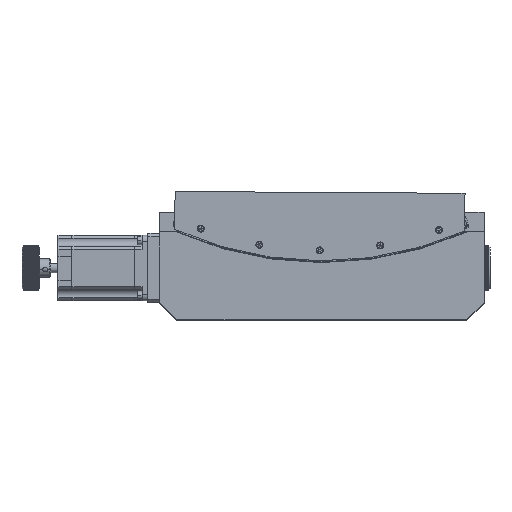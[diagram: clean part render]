
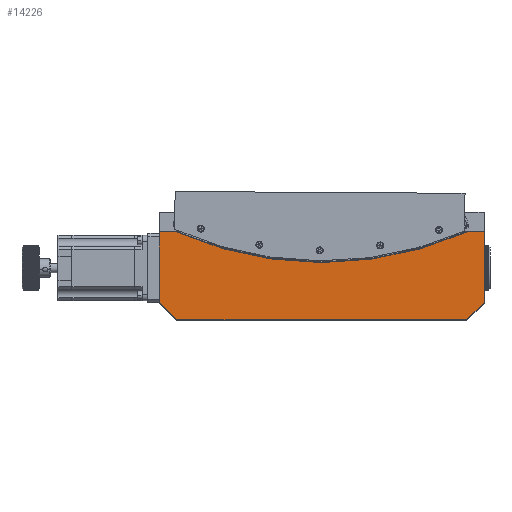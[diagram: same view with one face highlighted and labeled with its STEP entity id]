
A CAD part, top view. The second image highlights one B-rep face of the part: STEP entity #14226.
In plain terms, the highlighted planar face has unit normal (0, 0, 1).
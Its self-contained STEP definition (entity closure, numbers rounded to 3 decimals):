
#165 = DIRECTION ( 'NONE',  ( 1., 0., 0. ) ) ;
#625 = EDGE_CURVE ( 'NONE', #60188, #35125, #70253, .T. ) ;
#725 = LINE ( 'NONE', #44253, #48659 ) ;
#1711 = VECTOR ( 'NONE', #24574, 1000. ) ;
#5251 = EDGE_CURVE ( 'NONE', #16733, #66769, #6671, .T. ) ;
#6671 = LINE ( 'NONE', #63354, #61179 ) ;
#7596 = DIRECTION ( 'NONE',  ( 1., 0., 0. ) ) ;
#10906 = VECTOR ( 'NONE', #19831, 1000. ) ;
#13525 = CIRCLE ( 'NONE', #66016, 310.5 ) ;
#14226 = ADVANCED_FACE ( 'NONE', ( #28779 ), #64234, .T. ) ;
#15217 = ORIENTED_EDGE ( 'NONE', *, *, #625, .T. ) ;
#15375 = EDGE_CURVE ( 'NONE', #73647, #20079, #63854, .T. ) ;
#16733 = VERTEX_POINT ( 'NONE', #34276 ) ;
#16991 = CARTESIAN_POINT ( 'NONE',  ( -168.152, -57.355, 250. ) ) ;
#17254 = EDGE_CURVE ( 'NONE', #33555, #60188, #25794, .T. ) ;
#19831 = DIRECTION ( 'NONE',  ( 0.707, 0.707, 0. ) ) ;
#20079 = VERTEX_POINT ( 'NONE', #32560 ) ;
#20694 = CARTESIAN_POINT ( 'NONE',  ( -183.152, -57.355, 250. ) ) ;
#21354 = DIRECTION ( 'NONE',  ( -1., 0., 0. ) ) ;
#21809 = EDGE_CURVE ( 'NONE', #66769, #73647, #47024, .T. ) ;
#22190 = DIRECTION ( 'NONE',  ( 1., 0., 0. ) ) ;
#24574 = DIRECTION ( 'NONE',  ( 0., 1., 0. ) ) ;
#25794 = LINE ( 'NONE', #75049, #1711 ) ;
#26469 = DIRECTION ( 'NONE',  ( 0., 0., 1. ) ) ;
#28779 = FACE_OUTER_BOUND ( 'NONE', #75595, .T. ) ;
#29625 = ORIENTED_EDGE ( 'NONE', *, *, #63495, .F. ) ;
#32229 = ORIENTED_EDGE ( 'NONE', *, *, #17254, .T. ) ;
#32560 = CARTESIAN_POINT ( 'NONE',  ( 81.848, -57.355, 250. ) ) ;
#33555 = VERTEX_POINT ( 'NONE', #65570 ) ;
#34134 = CARTESIAN_POINT ( 'NONE',  ( -43.152, 302.645, 250. ) ) ;
#34276 = CARTESIAN_POINT ( 'NONE',  ( -183.152, 18.645, 250. ) ) ;
#35125 = VERTEX_POINT ( 'NONE', #56775 ) ;
#35901 = DIRECTION ( 'NONE',  ( 0.707, -0.707, 0. ) ) ;
#36175 = ORIENTED_EDGE ( 'NONE', *, *, #5251, .T. ) ;
#37220 = AXIS2_PLACEMENT_3D ( 'NONE', #34134, #26469, #22190 ) ;
#38220 = VECTOR ( 'NONE', #7596, 1000. ) ;
#38647 = CARTESIAN_POINT ( 'NONE',  ( 96.848, 18.645, 250. ) ) ;
#44051 = DIRECTION ( 'NONE',  ( 0., -1., 0. ) ) ;
#44253 = CARTESIAN_POINT ( 'NONE',  ( -183.152, 18.645, 250. ) ) ;
#45064 = DIRECTION ( 'NONE',  ( -1., 0., 0. ) ) ;
#47024 = LINE ( 'NONE', #79046, #77118 ) ;
#47964 = ORIENTED_EDGE ( 'NONE', *, *, #15375, .T. ) ;
#48264 = VERTEX_POINT ( 'NONE', #59751 ) ;
#48373 = ORIENTED_EDGE ( 'NONE', *, *, #21809, .T. ) ;
#48659 = VECTOR ( 'NONE', #45064, 1000. ) ;
#50255 = EDGE_CURVE ( 'NONE', #48264, #16733, #725, .T. ) ;
#50612 = CARTESIAN_POINT ( 'NONE',  ( 96.848, 18.645, 250. ) ) ;
#50677 = DIRECTION ( 'NONE',  ( 0., 0., 1. ) ) ;
#53631 = CARTESIAN_POINT ( 'NONE',  ( -183.152, -42.355, 250. ) ) ;
#56775 = CARTESIAN_POINT ( 'NONE',  ( 82.364, 18.645, 250. ) ) ;
#59751 = CARTESIAN_POINT ( 'NONE',  ( -168.668, 18.645, 250. ) ) ;
#60188 = VERTEX_POINT ( 'NONE', #50612 ) ;
#61179 = VECTOR ( 'NONE', #44051, 1000. ) ;
#61474 = LINE ( 'NONE', #76118, #10906 ) ;
#63002 = ORIENTED_EDGE ( 'NONE', *, *, #50255, .T. ) ;
#63354 = CARTESIAN_POINT ( 'NONE',  ( -183.152, -57.355, 250. ) ) ;
#63495 = EDGE_CURVE ( 'NONE', #48264, #35125, #13525, .T. ) ;
#63535 = EDGE_CURVE ( 'NONE', #20079, #33555, #61474, .T. ) ;
#63820 = CARTESIAN_POINT ( 'NONE',  ( -43.152, 302.645, 250. ) ) ;
#63836 = ORIENTED_EDGE ( 'NONE', *, *, #63535, .T. ) ;
#63854 = LINE ( 'NONE', #20694, #38220 ) ;
#64234 = PLANE ( 'NONE',  #37220 ) ;
#65570 = CARTESIAN_POINT ( 'NONE',  ( 96.848, -42.355, 250. ) ) ;
#66016 = AXIS2_PLACEMENT_3D ( 'NONE', #63820, #50677, #165 ) ;
#66769 = VERTEX_POINT ( 'NONE', #53631 ) ;
#70253 = LINE ( 'NONE', #38647, #74134 ) ;
#73647 = VERTEX_POINT ( 'NONE', #16991 ) ;
#74134 = VECTOR ( 'NONE', #21354, 1000. ) ;
#75049 = CARTESIAN_POINT ( 'NONE',  ( 96.848, -57.355, 250. ) ) ;
#75595 = EDGE_LOOP ( 'NONE', ( #47964, #63836, #32229, #15217, #29625, #63002, #36175, #48373 ) ) ;
#76118 = CARTESIAN_POINT ( 'NONE',  ( 199.348, 60.145, 250. ) ) ;
#77118 = VECTOR ( 'NONE', #35901, 1000. ) ;
#79046 = CARTESIAN_POINT ( 'NONE',  ( -285.652, 60.145, 250. ) ) ;
